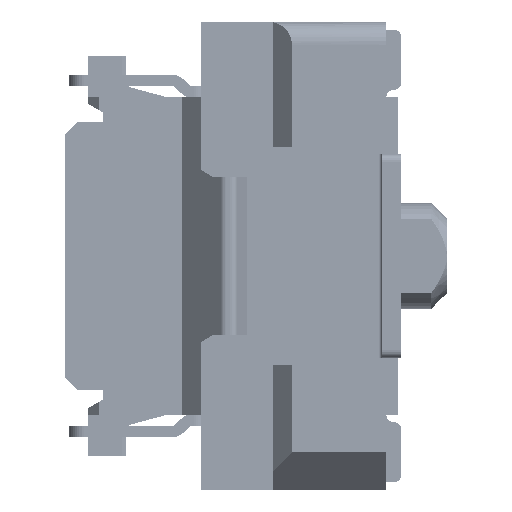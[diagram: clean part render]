
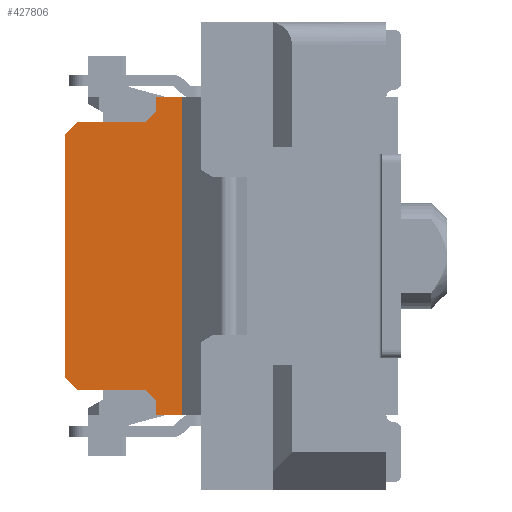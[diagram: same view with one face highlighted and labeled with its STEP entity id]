
A CAD part, left-side view. The second image highlights one B-rep face of the part: STEP entity #427806.
In plain terms, the highlighted planar face has unit normal (-1, 0, 0).
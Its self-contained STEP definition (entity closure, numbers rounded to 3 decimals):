
#1498 = LINE ( 'NONE', #64047, #306922 ) ;
#1866 = VERTEX_POINT ( 'NONE', #324548 ) ;
#5670 = ORIENTED_EDGE ( 'NONE', *, *, #497216, .T. ) ;
#20676 = LINE ( 'NONE', #157502, #436657 ) ;
#33576 = ORIENTED_EDGE ( 'NONE', *, *, #493926, .T. ) ;
#34283 = CARTESIAN_POINT ( 'NONE',  ( -29.1, 4.3, 1.77 ) ) ;
#36384 = DIRECTION ( 'NONE',  ( 0., -0.707, -0.707 ) ) ;
#40834 = CARTESIAN_POINT ( 'NONE',  ( -29.1, 3.4, 1.77 ) ) ;
#46614 = ORIENTED_EDGE ( 'NONE', *, *, #484390, .T. ) ;
#48638 = CARTESIAN_POINT ( 'NONE',  ( -29.1, 2.65, 3.1 ) ) ;
#52016 = VECTOR ( 'NONE', #36384, 1000. ) ;
#55174 = VECTOR ( 'NONE', #513420, 1000. ) ;
#64047 = CARTESIAN_POINT ( 'NONE',  ( -29.1, 5.91, -0.16 ) ) ;
#67315 = EDGE_CURVE ( 'NONE', #1866, #71855, #140665, .T. ) ;
#67801 = LINE ( 'NONE', #430250, #275800 ) ;
#71855 = VERTEX_POINT ( 'NONE', #40834 ) ;
#72707 = CARTESIAN_POINT ( 'NONE',  ( -29.1, 3.25, 2.1 ) ) ;
#76460 = DIRECTION ( 'NONE',  ( 0., 0., -1. ) ) ;
#90385 = DIRECTION ( 'NONE',  ( 0., 0., -1. ) ) ;
#114531 = EDGE_CURVE ( 'NONE', #264269, #116920, #481234, .T. ) ;
#114568 = FACE_OUTER_BOUND ( 'NONE', #304577, .T. ) ;
#116920 = VERTEX_POINT ( 'NONE', #186051 ) ;
#121079 = ORIENTED_EDGE ( 'NONE', *, *, #266284, .T. ) ;
#121619 = ORIENTED_EDGE ( 'NONE', *, *, #348285, .T. ) ;
#130463 = PLANE ( 'NONE',  #222778 ) ;
#140665 = LINE ( 'NONE', #478442, #459325 ) ;
#143416 = ORIENTED_EDGE ( 'NONE', *, *, #184198, .T. ) ;
#153066 = LINE ( 'NONE', #325403, #374249 ) ;
#157502 = CARTESIAN_POINT ( 'NONE',  ( -29.1, 2.65, 1.77 ) ) ;
#173329 = CARTESIAN_POINT ( 'NONE',  ( -29.1, 2.65, -1.77 ) ) ;
#178860 = ORIENTED_EDGE ( 'NONE', *, *, #472466, .T. ) ;
#184198 = EDGE_CURVE ( 'NONE', #116920, #199443, #474152, .T. ) ;
#185391 = VECTOR ( 'NONE', #519127, 1000. ) ;
#186051 = CARTESIAN_POINT ( 'NONE',  ( -29.1, 3.25, -1.92 ) ) ;
#188885 = VECTOR ( 'NONE', #532935, 1000. ) ;
#191718 = VECTOR ( 'NONE', #505980, 1000. ) ;
#192329 = ORIENTED_EDGE ( 'NONE', *, *, #428441, .T. ) ;
#199443 = VERTEX_POINT ( 'NONE', #534930 ) ;
#201795 = VECTOR ( 'NONE', #427968, 1000. ) ;
#201953 = VERTEX_POINT ( 'NONE', #34283 ) ;
#220881 = CARTESIAN_POINT ( 'NONE',  ( -29.1, 0.2, -2.1 ) ) ;
#222778 = AXIS2_PLACEMENT_3D ( 'NONE', #48638, #339314, #90385 ) ;
#227952 = CARTESIAN_POINT ( 'NONE',  ( -29.1, 4.45, -1.62 ) ) ;
#229281 = DIRECTION ( 'NONE',  ( 0., 0.707, -0.707 ) ) ;
#232092 = VERTEX_POINT ( 'NONE', #318498 ) ;
#237381 = CARTESIAN_POINT ( 'NONE',  ( -29.1, 2.9, -2.1 ) ) ;
#238250 = ORIENTED_EDGE ( 'NONE', *, *, #67315, .T. ) ;
#242176 = CARTESIAN_POINT ( 'NONE',  ( -29.1, 4.45, 3.1 ) ) ;
#253212 = ORIENTED_EDGE ( 'NONE', *, *, #114531, .T. ) ;
#255951 = VERTEX_POINT ( 'NONE', #343568 ) ;
#264269 = VERTEX_POINT ( 'NONE', #303519 ) ;
#264753 = DIRECTION ( 'NONE',  ( 0., 1., 0. ) ) ;
#266185 = CARTESIAN_POINT ( 'NONE',  ( -29.1, 2.81, 3.26 ) ) ;
#266284 = EDGE_CURVE ( 'NONE', #232092, #413948, #67801, .T. ) ;
#274608 = CARTESIAN_POINT ( 'NONE',  ( -29.1, 3.25, 3.1 ) ) ;
#275800 = VECTOR ( 'NONE', #264753, 1000. ) ;
#303519 = CARTESIAN_POINT ( 'NONE',  ( -29.1, 3.4, -1.77 ) ) ;
#304577 = EDGE_LOOP ( 'NONE', ( #253212, #143416, #5670, #431399, #121079, #178860, #238250, #514040, #121619, #46614, #33576, #192329 ) ) ;
#306922 = VECTOR ( 'NONE', #354628, 1000. ) ;
#318498 = CARTESIAN_POINT ( 'NONE',  ( -29.1, 2.9, 2.1 ) ) ;
#324548 = CARTESIAN_POINT ( 'NONE',  ( -29.1, 3.25, 1.92 ) ) ;
#325403 = CARTESIAN_POINT ( 'NONE',  ( -29.1, 3.25, 3.1 ) ) ;
#325471 = LINE ( 'NONE', #220881, #201795 ) ;
#339314 = DIRECTION ( 'NONE',  ( 1., 0., 0. ) ) ;
#343568 = CARTESIAN_POINT ( 'NONE',  ( -29.1, 4.45, 1.62 ) ) ;
#348285 = EDGE_CURVE ( 'NONE', #201953, #255951, #373674, .T. ) ;
#354628 = DIRECTION ( 'NONE',  ( 0., -0.707, -0.707 ) ) ;
#363361 = VECTOR ( 'NONE', #525308, 1000. ) ;
#368796 = CARTESIAN_POINT ( 'NONE',  ( -29.1, 5.46, 0.29 ) ) ;
#373674 = LINE ( 'NONE', #266185, #55174 ) ;
#374249 = VECTOR ( 'NONE', #76460, 1000. ) ;
#377410 = VERTEX_POINT ( 'NONE', #227952 ) ;
#380491 = EDGE_CURVE ( 'NONE', #71855, #201953, #20676, .T. ) ;
#382244 = CARTESIAN_POINT ( 'NONE',  ( -29.1, 4.3, -1.77 ) ) ;
#411731 = EDGE_CURVE ( 'NONE', #448612, #232092, #517036, .T. ) ;
#412900 = LINE ( 'NONE', #173329, #191718 ) ;
#413948 = VERTEX_POINT ( 'NONE', #72707 ) ;
#427806 = ADVANCED_FACE ( 'NONE', ( #114568 ), #130463, .F. ) ;
#427968 = DIRECTION ( 'NONE',  ( 0., -1., 0. ) ) ;
#428441 = EDGE_CURVE ( 'NONE', #487705, #264269, #412900, .T. ) ;
#430250 = CARTESIAN_POINT ( 'NONE',  ( -29.1, 0.2, 2.1 ) ) ;
#431399 = ORIENTED_EDGE ( 'NONE', *, *, #411731, .T. ) ;
#436657 = VECTOR ( 'NONE', #490252, 1000. ) ;
#448612 = VERTEX_POINT ( 'NONE', #237381 ) ;
#459325 = VECTOR ( 'NONE', #229281, 1000. ) ;
#472466 = EDGE_CURVE ( 'NONE', #413948, #1866, #153066, .T. ) ;
#474152 = LINE ( 'NONE', #274608, #363361 ) ;
#477557 = CARTESIAN_POINT ( 'NONE',  ( -29.1, 2.9, -2.454 ) ) ;
#478442 = CARTESIAN_POINT ( 'NONE',  ( -29.1, 2.36, 2.81 ) ) ;
#481234 = LINE ( 'NONE', #368796, #52016 ) ;
#484390 = EDGE_CURVE ( 'NONE', #255951, #377410, #507623, .T. ) ;
#487705 = VERTEX_POINT ( 'NONE', #382244 ) ;
#490252 = DIRECTION ( 'NONE',  ( 0., 1., 0. ) ) ;
#493926 = EDGE_CURVE ( 'NONE', #377410, #487705, #1498, .T. ) ;
#497216 = EDGE_CURVE ( 'NONE', #199443, #448612, #325471, .T. ) ;
#505980 = DIRECTION ( 'NONE',  ( 0., -1., 0. ) ) ;
#507623 = LINE ( 'NONE', #242176, #188885 ) ;
#513420 = DIRECTION ( 'NONE',  ( 0., 0.707, -0.707 ) ) ;
#514040 = ORIENTED_EDGE ( 'NONE', *, *, #380491, .T. ) ;
#517036 = LINE ( 'NONE', #477557, #185391 ) ;
#519127 = DIRECTION ( 'NONE',  ( 0., 0., 1. ) ) ;
#525308 = DIRECTION ( 'NONE',  ( 0., 0., -1. ) ) ;
#532935 = DIRECTION ( 'NONE',  ( 0., 0., -1. ) ) ;
#534930 = CARTESIAN_POINT ( 'NONE',  ( -29.1, 3.25, -2.1 ) ) ;
